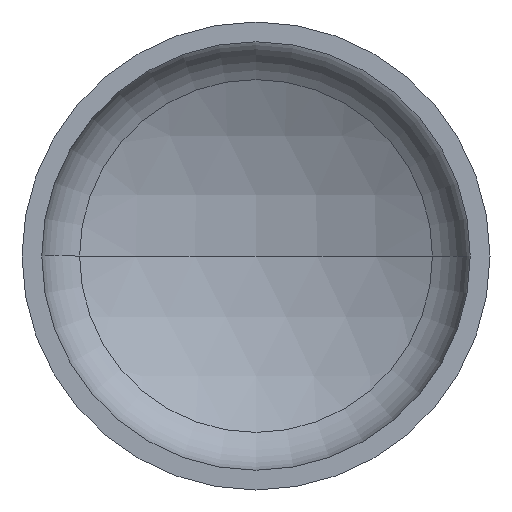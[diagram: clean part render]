
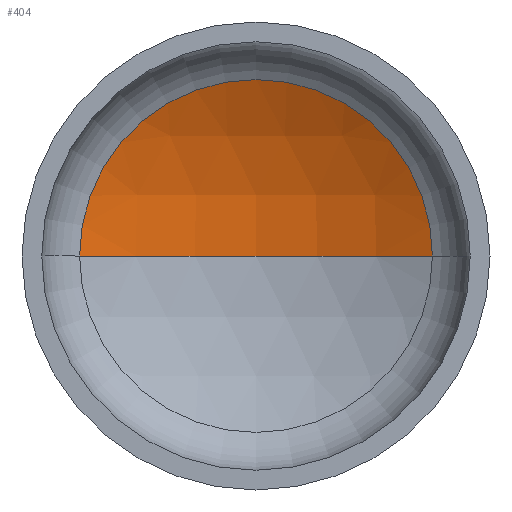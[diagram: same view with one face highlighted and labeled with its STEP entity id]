
A CAD part, front view. The second image highlights one B-rep face of the part: STEP entity #404.
In plain terms, the highlighted spherical face has radius 1440 mm.
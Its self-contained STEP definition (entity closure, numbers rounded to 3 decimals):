
#1 = DIRECTION ( 'NONE',  ( 0., 0., 1. ) ) ;
#4 = VERTEX_POINT ( 'NONE', #261 ) ;
#8 = EDGE_LOOP ( 'NONE', ( #88, #55, #48 ) ) ;
#12 = AXIS2_PLACEMENT_3D ( 'NONE', #166, #1, #246 ) ;
#22 = VERTEX_POINT ( 'NONE', #242 ) ;
#48 = ORIENTED_EDGE ( 'NONE', *, *, #239, .T. ) ;
#55 = ORIENTED_EDGE ( 'NONE', *, *, #152, .T. ) ;
#63 = VERTEX_POINT ( 'NONE', #243 ) ;
#88 = ORIENTED_EDGE ( 'NONE', *, *, #175, .F. ) ;
#119 = CIRCLE ( 'NONE', #385, 1440. ) ;
#143 = AXIS2_PLACEMENT_3D ( 'NONE', #381, #356, #198 ) ;
#152 = EDGE_CURVE ( 'NONE', #4, #22, #119, .T. ) ;
#162 = CARTESIAN_POINT ( 'NONE',  ( 0., 362.551, 0. ) ) ;
#163 = DIRECTION ( 'NONE',  ( 0., -1., 0. ) ) ;
#166 = CARTESIAN_POINT ( 'NONE',  ( 0., -907.533, 0. ) ) ;
#175 = EDGE_CURVE ( 'NONE', #4, #63, #270, .T. ) ;
#197 = DIRECTION ( 'NONE',  ( -1., 0., 0. ) ) ;
#198 = DIRECTION ( 'NONE',  ( -1., 0., 0. ) ) ;
#207 = SPHERICAL_SURFACE ( 'NONE', #143, 1440. ) ;
#209 = CARTESIAN_POINT ( 'NONE',  ( 0., -907.533, 0. ) ) ;
#210 = DIRECTION ( 'NONE',  ( 0., 0., -1. ) ) ;
#231 = AXIS2_PLACEMENT_3D ( 'NONE', #162, #163, #388 ) ;
#239 = EDGE_CURVE ( 'NONE', #22, #63, #250, .T. ) ;
#242 = CARTESIAN_POINT ( 'NONE',  ( 678.592, 362.551, 0. ) ) ;
#243 = CARTESIAN_POINT ( 'NONE',  ( -678.592, 362.551, 0. ) ) ;
#246 = DIRECTION ( 'NONE',  ( 1., 0., 0. ) ) ;
#250 = CIRCLE ( 'NONE', #231, 678.592 ) ;
#261 = CARTESIAN_POINT ( 'NONE',  ( 0., 532.467, 0. ) ) ;
#270 = CIRCLE ( 'NONE', #12, 1440. ) ;
#356 = DIRECTION ( 'NONE',  ( 0., 0., -1. ) ) ;
#381 = CARTESIAN_POINT ( 'NONE',  ( 0., -907.533, 0. ) ) ;
#385 = AXIS2_PLACEMENT_3D ( 'NONE', #209, #210, #197 ) ;
#388 = DIRECTION ( 'NONE',  ( 1., 0., 0. ) ) ;
#404 = ADVANCED_FACE ( 'NONE', ( #405 ), #207, .F. ) ;
#405 = FACE_OUTER_BOUND ( 'NONE', #8, .T. ) ;
